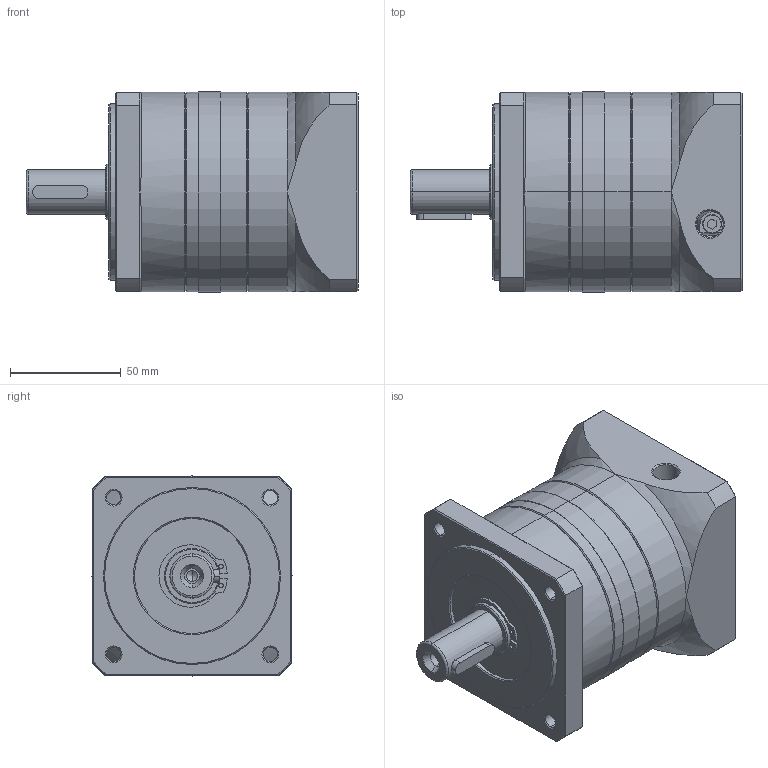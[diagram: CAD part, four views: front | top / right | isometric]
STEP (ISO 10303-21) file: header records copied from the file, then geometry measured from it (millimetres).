
FILE_DESCRIPTION (( 'STEP AP214' ), '1' );
FILE_NAME ('PF90-L1-输入M6.STEP', '2024-01-16T05:38:00', ( 'User' ), ( 'China' ), 'SwSTEP 2.0', 'SolidWorks 2014', '' );
FILE_SCHEMA (( 'AUTOMOTIVE_DESIGN' ));
Length unit declared in the file: millimetre
Products named in the file (10): M6℅20囀鞠褒蹟佪; 25粣蚚縐銅-A倰; M5℅20囀鞠褒蹟佪; 6-6-25; PF90薊粣ん; PF90粣創杸測啣; PF90-SR01-M6; PF90-单段内齿圈; PF90奻裔啣; PF90-L1-输入M6
Assembly tree (13 placements, depth 2):
  PF90-L1-输入M6
    PF90奻裔啣
    PF90-单段内齿圈
    PF90-SR01-M6
    PF90粣創杸測啣
    PF90薊粣ん
    6-6-25
    M5℅20囀鞠褒蹟佪  x2
    25粣蚚縐銅-A倰
    M6℅20囀鞠褒蹟佪  x4
Bounding box: 150 x 90.4 x 90.4 mm (x, y, z)
Volume: 677486.4 mm3; surface area: 119884.4 mm2
Topology: 13 solids, 13 shells, 508 faces, 1154 edges, 706 vertices
Faces by surface type: cylinder 182, plane 159, cone 131, bspline 24, torus 12
Entity records: 13550 total; most frequent: CARTESIAN_POINT 3051, DIRECTION 2247, ORIENTED_EDGE 1952, EDGE_CURVE 976, AXIS2_PLACEMENT_3D 917, VERTEX_POINT 602, EDGE_LOOP 500, CIRCLE 481
